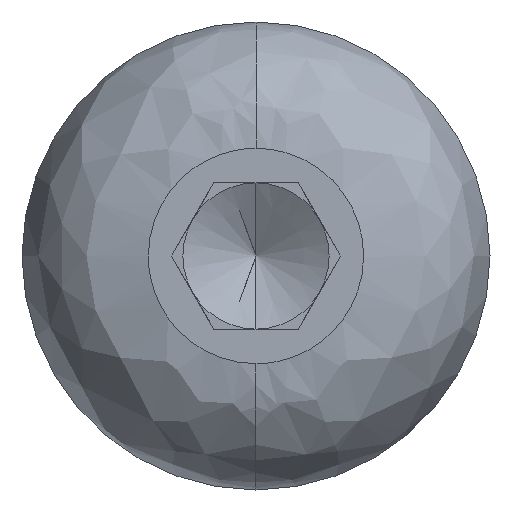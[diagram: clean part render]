
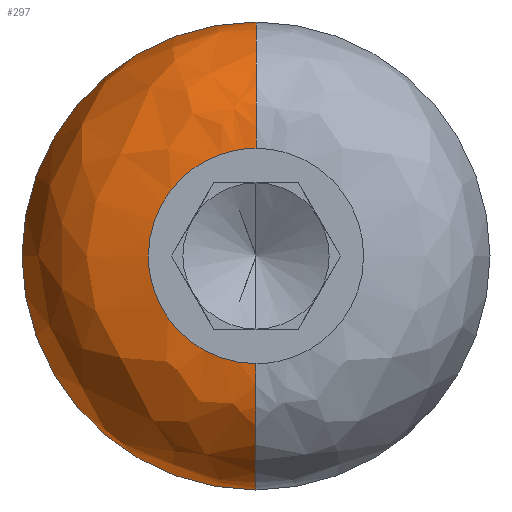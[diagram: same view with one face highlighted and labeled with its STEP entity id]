
A CAD part, left-side view. The second image highlights one B-rep face of the part: STEP entity #297.
In plain terms, the highlighted free-form (B-spline) face has degree [3, 3] with [4, 4] control points.
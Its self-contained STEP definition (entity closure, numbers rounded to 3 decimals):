
#6 = DIRECTION ( 'NONE',  ( 0., -1., 0. ) ) ;
#7 = VERTEX_POINT ( 'NONE', #644 ) ;
#19 = CARTESIAN_POINT ( 'NONE',  ( 4.32, 16., 8. ) ) ;
#51 = ORIENTED_EDGE ( 'NONE', *, *, #220, .F. ) ;
#67 =( BOUNDED_CURVE ( )  B_SPLINE_CURVE ( 3, ( #590, #713, #349, #778 ),
 .UNSPECIFIED., .F., .F. ) 
 B_SPLINE_CURVE_WITH_KNOTS ( ( 4, 4 ),
 ( 0., 1. ),
 .UNSPECIFIED. ) 
 CURVE ( )  GEOMETRIC_REPRESENTATION_ITEM ( )  RATIONAL_B_SPLINE_CURVE ( ( 1., 0.805, 0.805, 1. ) ) 
 REPRESENTATION_ITEM ( '' )  );
#72 = CARTESIAN_POINT ( 'NONE',  ( 0., 7.36, -3.68 ) ) ;
#74 = CARTESIAN_POINT ( 'NONE',  ( 4.32, 0., -8. ) ) ;
#102 = ORIENTED_EDGE ( 'NONE', *, *, #612, .T. ) ;
#134 = CARTESIAN_POINT ( 'NONE',  ( 0., 0., 6.211 ) ) ;
#136 = CARTESIAN_POINT ( 'NONE',  ( 0., 3.68, -2.156 ) ) ;
#190 = VERTEX_POINT ( 'NONE', #669 ) ;
#200 = ORIENTED_EDGE ( 'NONE', *, *, #692, .F. ) ;
#201 = CARTESIAN_POINT ( 'NONE',  ( 0., 12.421, -6.211 ) ) ;
#203 = CARTESIAN_POINT ( 'NONE',  ( 4.32, 0., 3.68 ) ) ;
#220 = EDGE_CURVE ( 'NONE', #7, #271, #631, .T. ) ;
#225 = AXIS2_PLACEMENT_3D ( 'NONE', #676, #312, #740 ) ;
#257 = CARTESIAN_POINT ( 'NONE',  ( 1.789, 0., 8. ) ) ;
#263 = DIRECTION ( 'NONE',  ( 0., 0., 1. ) ) ;
#271 = VERTEX_POINT ( 'NONE', #492 ) ;
#297 = ADVANCED_FACE ( 'NONE', ( #426 ), #691, .T. ) ;
#312 = DIRECTION ( 'NONE',  ( 1., 0., 0. ) ) ;
#317 = CARTESIAN_POINT ( 'NONE',  ( 0., 0., -3.68 ) ) ;
#318 = CARTESIAN_POINT ( 'NONE',  ( 1.789, 16., -8. ) ) ;
#323 = CARTESIAN_POINT ( 'NONE',  ( 0., 0., 3.68 ) ) ;
#349 = CARTESIAN_POINT ( 'NONE',  ( 0., 2.156, 3.68 ) ) ;
#352 = VERTEX_POINT ( 'NONE', #323 ) ;
#366 = CARTESIAN_POINT ( 'NONE',  ( 4.32, 0., -3.68 ) ) ;
#374 = CARTESIAN_POINT ( 'NONE',  ( 4.32, 0., 8. ) ) ;
#376 = CARTESIAN_POINT ( 'NONE',  ( 0., 0., 3.68 ) ) ;
#378 = CARTESIAN_POINT ( 'NONE',  ( 4.32, 0., 8. ) ) ;
#426 = FACE_OUTER_BOUND ( 'NONE', #584, .T. ) ;
#427 = DIRECTION ( 'NONE',  ( 0., 0., -1. ) ) ;
#439 = CARTESIAN_POINT ( 'NONE',  ( 4.32, 16., -8. ) ) ;
#492 = CARTESIAN_POINT ( 'NONE',  ( 4.32, 0., -8. ) ) ;
#495 = CARTESIAN_POINT ( 'NONE',  ( 0., 0., -3.68 ) ) ;
#527 = ORIENTED_EDGE ( 'NONE', *, *, #765, .T. ) ;
#555 = CARTESIAN_POINT ( 'NONE',  ( 0., 12.421, 6.211 ) ) ;
#556 = CARTESIAN_POINT ( 'NONE',  ( 0., 3.68, 0. ) ) ;
#571 =( BOUNDED_CURVE ( )  B_SPLINE_CURVE ( 3, ( #317, #619, #136, #556 ),
 .UNSPECIFIED., .F., .T. ) 
 B_SPLINE_CURVE_WITH_KNOTS ( ( 4, 4 ),
 ( 0., 1. ),
 .UNSPECIFIED. ) 
 CURVE ( )  GEOMETRIC_REPRESENTATION_ITEM ( )  RATIONAL_B_SPLINE_CURVE ( ( 1., 0.805, 0.805, 1. ) ) 
 REPRESENTATION_ITEM ( '' )  );
#584 = EDGE_LOOP ( 'NONE', ( #51, #608, #102, #527, #200 ) ) ;
#590 = CARTESIAN_POINT ( 'NONE',  ( 0., 3.68, 0. ) ) ;
#591 = AXIS2_PLACEMENT_3D ( 'NONE', #366, #6, #427 ) ;
#593 = AXIS2_PLACEMENT_3D ( 'NONE', #203, #626, #263 ) ;
#607 = CIRCLE ( 'NONE', #593, 4.32 ) ;
#608 = ORIENTED_EDGE ( 'NONE', *, *, #735, .T. ) ;
#612 = EDGE_CURVE ( 'NONE', #190, #352, #67, .T. ) ;
#619 = CARTESIAN_POINT ( 'NONE',  ( 0., 2.156, -3.68 ) ) ;
#621 = CARTESIAN_POINT ( 'NONE',  ( 0., 0., -6.211 ) ) ;
#626 = DIRECTION ( 'NONE',  ( 0., 1., 0. ) ) ;
#631 = CIRCLE ( 'NONE', #591, 4.32 ) ;
#644 = CARTESIAN_POINT ( 'NONE',  ( 0., 0., -3.68 ) ) ;
#646 = CIRCLE ( 'NONE', #225, 8. ) ;
#669 = CARTESIAN_POINT ( 'NONE',  ( 0., 3.68, 0. ) ) ;
#676 = CARTESIAN_POINT ( 'NONE',  ( 4.32, 0., 0. ) ) ;
#677 = CARTESIAN_POINT ( 'NONE',  ( 0., 7.36, 3.68 ) ) ;
#680 = CARTESIAN_POINT ( 'NONE',  ( 1.789, 16., 8. ) ) ;
#691 =( BOUNDED_SURFACE ( )  B_SPLINE_SURFACE ( 3, 3, ( 
 ( #376, #677, #72, #495 ),
 ( #134, #555, #201, #621 ),
 ( #257, #680, #318, #743 ),
 ( #378, #19, #439, #74 ) ),
 .UNSPECIFIED., .F., .F., .F. ) 
 B_SPLINE_SURFACE_WITH_KNOTS ( ( 4, 4 ),
 ( 4, 4 ),
 ( 0., 1. ),
 ( 0., 1. ),
 .UNSPECIFIED. ) 
 GEOMETRIC_REPRESENTATION_ITEM ( )  RATIONAL_B_SPLINE_SURFACE ( (
 ( 1., 0.333, 0.333, 1.),
 ( 0.805, 0.268, 0.268, 0.805),
 ( 0.805, 0.268, 0.268, 0.805),
 ( 1., 0.333, 0.333, 1.) ) ) 
 REPRESENTATION_ITEM ( '' )  SURFACE ( )  );
#692 = EDGE_CURVE ( 'NONE', #271, #712, #646, .T. ) ;
#712 = VERTEX_POINT ( 'NONE', #374 ) ;
#713 = CARTESIAN_POINT ( 'NONE',  ( 0., 3.68, 2.156 ) ) ;
#735 = EDGE_CURVE ( 'NONE', #7, #190, #571, .T. ) ;
#740 = DIRECTION ( 'NONE',  ( 0., 0., 1. ) ) ;
#743 = CARTESIAN_POINT ( 'NONE',  ( 1.789, 0., -8. ) ) ;
#765 = EDGE_CURVE ( 'NONE', #352, #712, #607, .T. ) ;
#778 = CARTESIAN_POINT ( 'NONE',  ( 0., 0., 3.68 ) ) ;
